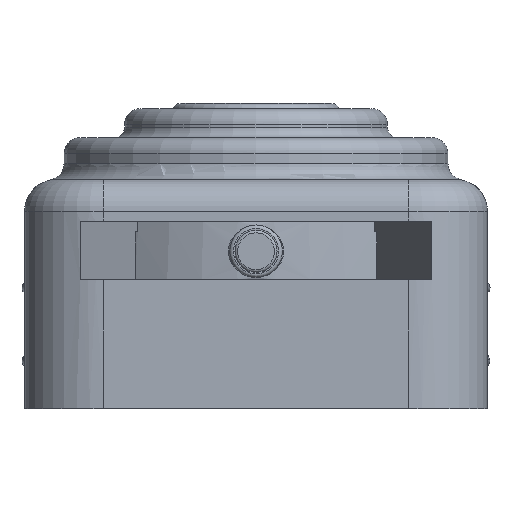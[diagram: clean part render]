
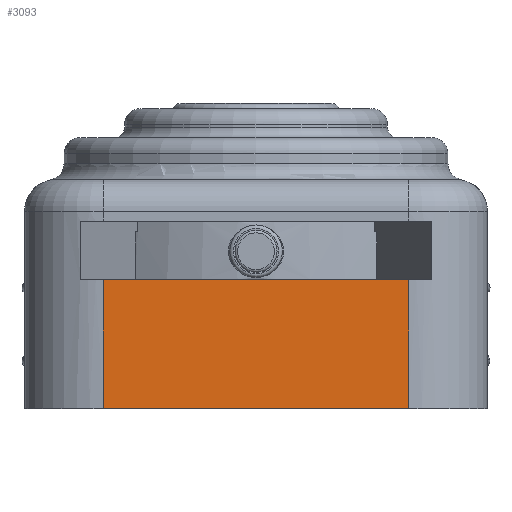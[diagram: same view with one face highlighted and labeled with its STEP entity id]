
A CAD part, left-side view. The second image highlights one B-rep face of the part: STEP entity #3093.
In plain terms, the highlighted planar face has unit normal (-1, 0, 0).
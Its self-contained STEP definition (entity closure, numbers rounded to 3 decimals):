
#173=LINE('',#4849,#364);
#174=LINE('',#4851,#365);
#175=LINE('',#4853,#366);
#176=LINE('',#4854,#367);
#364=VECTOR('',#3730,10.);
#365=VECTOR('',#3731,10.);
#366=VECTOR('',#3732,10.);
#367=VECTOR('',#3733,10.);
#555=PLANE('',#3323);
#908=FACE_OUTER_BOUND('',#1121,.T.);
#1121=EDGE_LOOP('',(#2218,#2219,#2220,#2221));
#1461=VERTEX_POINT('',#4847);
#1462=VERTEX_POINT('',#4848);
#1463=VERTEX_POINT('',#4850);
#1464=VERTEX_POINT('',#4852);
#1774=EDGE_CURVE('',#1461,#1462,#173,.T.);
#1775=EDGE_CURVE('',#1462,#1463,#174,.T.);
#1776=EDGE_CURVE('',#1464,#1463,#175,.T.);
#1777=EDGE_CURVE('',#1461,#1464,#176,.T.);
#2218=ORIENTED_EDGE('',*,*,#1774,.T.);
#2219=ORIENTED_EDGE('',*,*,#1775,.T.);
#2220=ORIENTED_EDGE('',*,*,#1776,.F.);
#2221=ORIENTED_EDGE('',*,*,#1777,.F.);
#3093=ADVANCED_FACE('',(#908),#555,.T.);
#3323=AXIS2_PLACEMENT_3D('',#4846,#3728,#3729);
#3728=DIRECTION('center_axis',(-1.,0.,0.));
#3729=DIRECTION('ref_axis',(0.,1.,0.));
#3730=DIRECTION('',(0.,1.,0.));
#3731=DIRECTION('',(0.,0.,-1.));
#3732=DIRECTION('',(0.,1.,0.));
#3733=DIRECTION('',(0.,0.,-1.));
#4846=CARTESIAN_POINT('Origin',(-61.,-29.,0.));
#4847=CARTESIAN_POINT('',(-61.,-29.,0.));
#4848=CARTESIAN_POINT('',(-61.,29.,0.));
#4849=CARTESIAN_POINT('',(-61.,-29.,0.));
#4850=CARTESIAN_POINT('',(-61.,29.,-24.5));
#4851=CARTESIAN_POINT('',(-61.,29.,0.));
#4852=CARTESIAN_POINT('',(-61.,-29.,-24.5));
#4853=CARTESIAN_POINT('',(-61.,-29.,-24.5));
#4854=CARTESIAN_POINT('',(-61.,-29.,0.));
